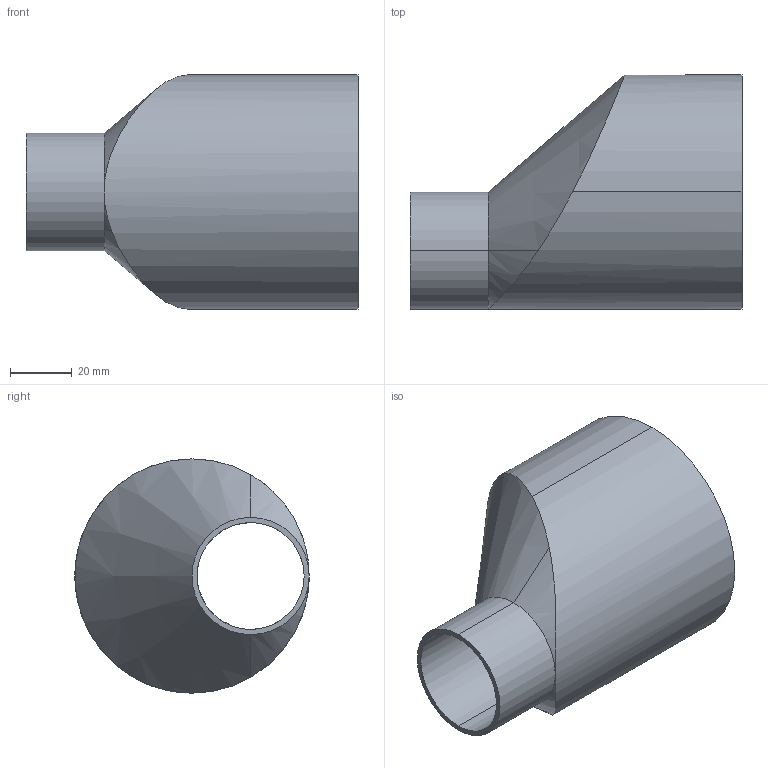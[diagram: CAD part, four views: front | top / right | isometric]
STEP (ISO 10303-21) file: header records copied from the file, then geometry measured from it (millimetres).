
FILE_DESCRIPTION (( 'STEP AP214' ), '1' );
FILE_NAME ('TE32SWW6L3.0x1.5-...STEP', '2016-06-01T08:21:11', ( 'eran' ), ( '' ), 'SwSTEP 2.0', 'SolidWorks 2016', '' );
FILE_SCHEMA (( 'AUTOMOTIVE_DESIGN' ));
Length unit declared in the file: millimetre
Products named in the file (1): TE32SWW6L3.0x1.5-..
Bounding box: 107.95 x 76.2 x 76.2 mm (x, y, z)
Volume: 142476.2 mm3; surface area: 39507.4 mm2
Topology: 1 solids, 1 shells, 17 faces, 39 edges, 24 vertices
Faces by surface type: cylinder 8, cone 6, plane 3
Entity records: 738 total; most frequent: CARTESIAN_POINT 316, DIRECTION 84, ORIENTED_EDGE 78, EDGE_CURVE 39, AXIS2_PLACEMENT_3D 36, VERTEX_POINT 24, EDGE_LOOP 19, CIRCLE 18
